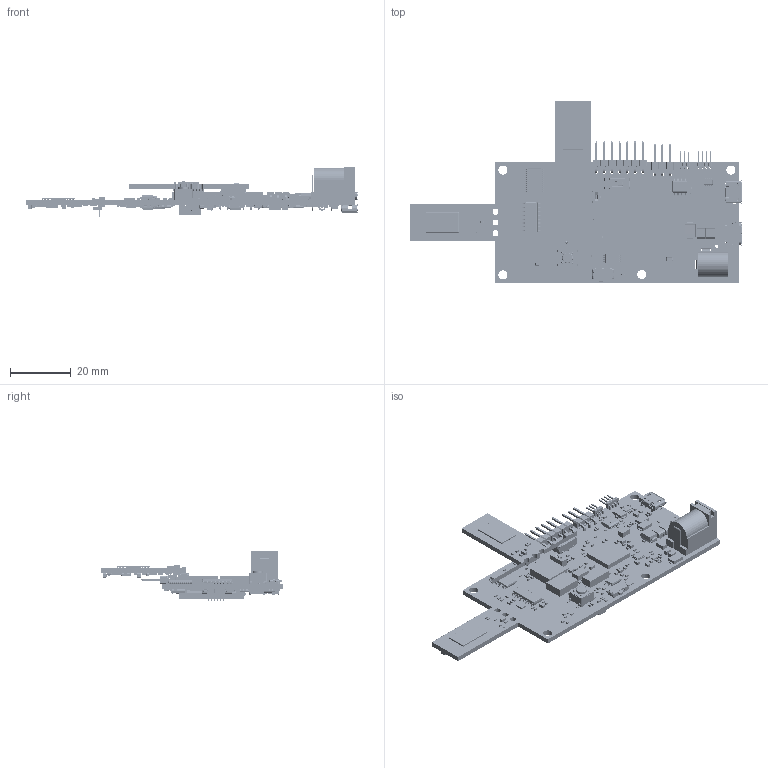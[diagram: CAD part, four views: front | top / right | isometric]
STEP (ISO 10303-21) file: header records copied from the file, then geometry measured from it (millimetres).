
FILE_DESCRIPTION(('Open CASCADE Model'),'2;1');
FILE_NAME('Open CASCADE Shape Model','2024-01-18T15:54:29',('Author'),( 'Open CASCADE'),'Open CASCADE STEP processor 7.5','Open CASCADE 7.5' ,'Unknown');
FILE_SCHEMA(('AUTOMOTIVE_DESIGN { 1 0 10303 214 1 1 1 1 }'));
Length unit declared in the file: millimetre
Products named in the file (935): PCB; Board; Open CASCADE STEP translator 7.5 1.1.1; SW3; Switch_CJS-1200A1_SMT3; 1; 2; logo; 3; SW2; Switch_JS102011JCQN_SMD3; xx; 4; 5; 6; 7; 8; 9; C&K; R83; 6690988048; Extruded; 6690987888; R36; Res_CRCW040240K2FKEDC_0402; Mid; Terminals; Top; Vishay; R35; Res_RC0402JR-070RP_0402; Yageo Logo; C1; Cap_GJM1555C1H100FB01D_0402; body; side; Murata; U24; 6690988288; 6690983328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
Assembly tree (2155 placements, depth 7):
  PCB
    Board
      Open CASCADE STEP translator 7.5 1.1.1
    SW3
      Switch_CJS-1200A1_SMT3
        1
        2
        logo
        3
    SW2
      Switch_JS102011JCQN_SMD3
        xx
          1
          2
          3
          4
          5
          6
          7
          8
          9
          C&K
    R83
      6690988048  x2
        Extruded
      6690987888
        Extruded
    R36
      Res_CRCW040240K2FKEDC_0402
        Mid
        Terminals
        Top
        Vishay
    R35
      Res_RC0402JR-070RP_0402
        1
        3
        4
        Yageo Logo
    C1
      Cap_GJM1555C1H100FB01D_0402
        body
        side  x2
        Murata
    U24
      6690988288
        Extruded
      6690983328
        Extruded
    R221
      Res_ERJ-2GE0R00X_0402
        1
        3
        4
        Panasonic Logo
    R222
      Res_ERJ-2GE0R00X_0402
        1
        3
        4
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Bounding box: 109.21 x 59.7 x 16.77 mm (x, y, z)
Volume: 9944.7 mm3; surface area: 20459 mm2
Topology: 3430 solids, 3431 shells, 53289 faces, 137291 edges, 90075 vertices
Faces by surface type: plane 31620, bspline 12914, cylinder 7405, sphere 1165, torus 177, cone 4, revolution 4
Full cylindrical faces by diameter (mm): 0.2 x4, 0.215 x1, 0.217 x1, 0.25 x1, 0.3 x5, 0.4 x4, 0.56 x12, 0.6 x9, 0.7 x4, 0.813 x2, 0.85 x6, 1.016 x1, 1.02 x9, 1.1 x3, 3 x4, 3.5 x1
Entity records: 555583 total; most frequent: CARTESIAN_POINT 128253, ORIENTED_EDGE 82130, DIRECTION 71785, EDGE_CURVE 41064, LINE 30541, VECTOR 30541, VERTEX_POINT 27045, AXIS2_PLACEMENT_3D 20620
